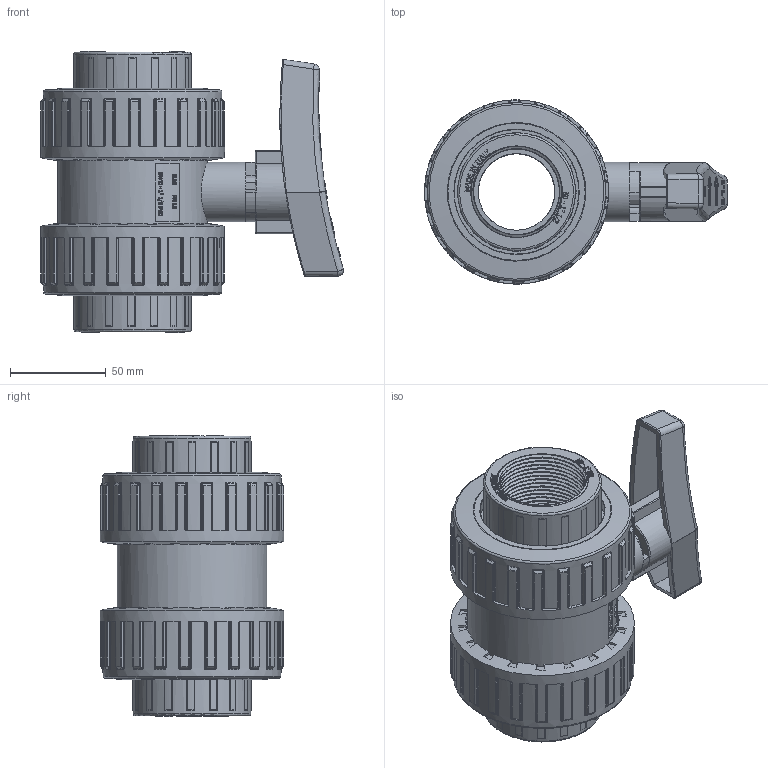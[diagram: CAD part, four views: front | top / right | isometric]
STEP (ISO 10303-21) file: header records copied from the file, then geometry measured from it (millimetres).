
FILE_DESCRIPTION(/* description */ (''),/* implementation_level */ '2;1');
FILE_NAME(/* name */ 'C:\ex desktop\VALVOLE SFERA\BV ACQUA\VALVOLE ACQUA FILETTATE\BVD41050\BVD41050_new_handle.stp',/* time_stamp */ '2019-04-02T15:04:51+02:00',/* author */ ('e.sacchi'),/* organization */ (''),/* preprocessor_version */ 'ST-DEVELOPER v16.13',/* originating_system */ 'Autodesk Inventor 2018',/* authorisation */ '');
FILE_SCHEMA (('AUTOMOTIVE_DESIGN { 1 0 10303 214 3 1 1 }'));
Length unit declared in the file: millimetre
Products named in the file (13): BVID40050; corpo_BVD_40_d_50; asta_BVD_40_d_50; LAV0115E; sfera_BVD_40_d_50; supporto_BVD_40_d_50; PTFE_BVI_10_d_50; LAV0159E; maniglia_BVI_10_d_50; LAV6187E; collare_BVD_40_d_50; ghiera_BVI_40_d_50; LAV3181E
Assembly tree (18 placements, depth 2):
  BVID40050
    corpo_BVD_40_d_50
    PTFE_BVI_10_d_50  x2
    asta_BVD_40_d_50
    LAV0115E  x2
    sfera_BVD_40_d_50
    supporto_BVD_40_d_50
    LAV0159E
    maniglia_BVI_10_d_50
    LAV6187E  x2
    collare_BVD_40_d_50  x2
    ghiera_BVI_40_d_50  x2
    LAV3181E  x2
Bounding box: 158.04 x 96 x 147 mm (x, y, z)
Volume: 578385 mm3; surface area: 249953.8 mm2
Topology: 20 solids, 20 shells, 3046 faces, 7915 edges, 5046 vertices
Faces by surface type: plane 1217, bspline 734, cylinder 639, torus 299, sphere 99, cone 58
Full cylindrical faces by diameter (mm): 5 x1, 12.795 x2, 17 x1, 17.2 x1, 17.7 x1, 18 x1, 31 x1, 40 x5, 45.6 x2, 46.5 x2, 47.8 x4, 50 x2, 50.6 x2, 57.8 x2, 60 x1, 61.5 x2, 62 x3, 65 x1, 66 x9, 78 x9, 80 x14, 93 x2, 96 x2
Entity records: 91697 total; most frequent: CARTESIAN_POINT 43808, ORIENTED_EDGE 10430, DIRECTION 9023, EDGE_CURVE 5214, VERTEX_POINT 3381, AXIS2_PLACEMENT_3D 3303, LINE 2417, VECTOR 2417
